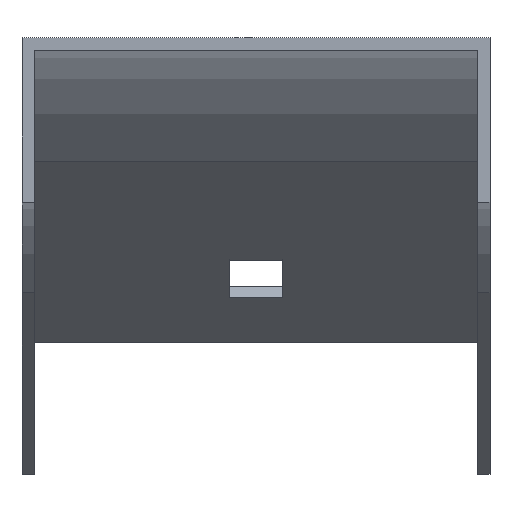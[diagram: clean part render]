
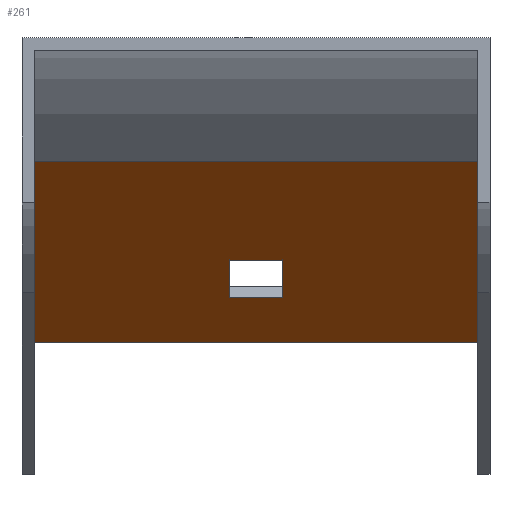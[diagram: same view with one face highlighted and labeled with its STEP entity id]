
A CAD part, top view. The second image highlights one B-rep face of the part: STEP entity #261.
In plain terms, the highlighted planar face has unit normal (0, -0.866, 0.5).
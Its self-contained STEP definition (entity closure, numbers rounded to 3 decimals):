
#11 = VERTEX_POINT ( 'NONE', #830 ) ;
#57 = CARTESIAN_POINT ( 'NONE',  ( 3.25, -14.897, -94. ) ) ;
#74 = EDGE_CURVE ( 'NONE', #644, #266, #828, .T. ) ;
#83 = ORIENTED_EDGE ( 'NONE', *, *, #446, .T. ) ;
#85 = CARTESIAN_POINT ( 'NONE',  ( -27., -14.897, -94. ) ) ;
#93 = LINE ( 'NONE', #623, #604 ) ;
#114 = CARTESIAN_POINT ( 'NONE',  ( 3.25, -26.897, -114.785 ) ) ;
#171 = CARTESIAN_POINT ( 'NONE',  ( -27., -14.897, -94. ) ) ;
#180 = LINE ( 'NONE', #384, #233 ) ;
#193 = DIRECTION ( 'NONE',  ( 0., 0.5, 0.866 ) ) ;
#195 = EDGE_LOOP ( 'NONE', ( #511, #83, #262, #726 ) ) ;
#213 = LINE ( 'NONE', #460, #323 ) ;
#228 = DIRECTION ( 'NONE',  ( 0., -0.866, 0.5 ) ) ;
#233 = VECTOR ( 'NONE', #769, 1000. ) ;
#237 = EDGE_CURVE ( 'NONE', #546, #238, #569, .T. ) ;
#238 = VERTEX_POINT ( 'NONE', #171 ) ;
#261 = ADVANCED_FACE ( 'NONE', ( #422, #821 ), #679, .T. ) ;
#262 = ORIENTED_EDGE ( 'NONE', *, *, #562, .T. ) ;
#266 = VERTEX_POINT ( 'NONE', #369 ) ;
#268 = DIRECTION ( 'NONE',  ( 0., -0.5, -0.866 ) ) ;
#287 = EDGE_CURVE ( 'NONE', #804, #11, #858, .T. ) ;
#295 = CARTESIAN_POINT ( 'NONE',  ( 27., -36.897, -132.105 ) ) ;
#298 = CARTESIAN_POINT ( 'NONE',  ( 28.5, -14.897, -94. ) ) ;
#309 = VECTOR ( 'NONE', #619, 1000. ) ;
#314 = ORIENTED_EDGE ( 'NONE', *, *, #287, .T. ) ;
#323 = VECTOR ( 'NONE', #476, 1000. ) ;
#351 = VECTOR ( 'NONE', #381, 1000. ) ;
#369 = CARTESIAN_POINT ( 'NONE',  ( 3.25, -31.397, -122.579 ) ) ;
#372 = CARTESIAN_POINT ( 'NONE',  ( -27., -36.897, -132.105 ) ) ;
#375 = VECTOR ( 'NONE', #193, 1000. ) ;
#381 = DIRECTION ( 'NONE',  ( -1., 0., 0. ) ) ;
#384 = CARTESIAN_POINT ( 'NONE',  ( 28.5, -31.397, -122.579 ) ) ;
#410 = VECTOR ( 'NONE', #646, 1000. ) ;
#422 = FACE_OUTER_BOUND ( 'NONE', #560, .T. ) ;
#446 = EDGE_CURVE ( 'NONE', #649, #470, #213, .T. ) ;
#447 = LINE ( 'NONE', #703, #351 ) ;
#460 = CARTESIAN_POINT ( 'NONE',  ( -3.25, -14.897, -94. ) ) ;
#470 = VERTEX_POINT ( 'NONE', #727 ) ;
#476 = DIRECTION ( 'NONE',  ( 0., 0.5, 0.866 ) ) ;
#493 = DIRECTION ( 'NONE',  ( 0., -0.5, -0.866 ) ) ;
#507 = AXIS2_PLACEMENT_3D ( 'NONE', #298, #228, #493 ) ;
#511 = ORIENTED_EDGE ( 'NONE', *, *, #565, .T. ) ;
#546 = VERTEX_POINT ( 'NONE', #372 ) ;
#560 = EDGE_LOOP ( 'NONE', ( #767, #617, #314, #862 ) ) ;
#562 = EDGE_CURVE ( 'NONE', #470, #644, #773, .T. ) ;
#565 = EDGE_CURVE ( 'NONE', #266, #649, #180, .T. ) ;
#569 = LINE ( 'NONE', #85, #309 ) ;
#578 = CARTESIAN_POINT ( 'NONE',  ( -3.25, -31.397, -122.579 ) ) ;
#580 = EDGE_CURVE ( 'NONE', #804, #546, #447, .T. ) ;
#604 = VECTOR ( 'NONE', #608, 1000. ) ;
#608 = DIRECTION ( 'NONE',  ( -1., 0., 0. ) ) ;
#617 = ORIENTED_EDGE ( 'NONE', *, *, #580, .F. ) ;
#619 = DIRECTION ( 'NONE',  ( 0., 0.5, 0.866 ) ) ;
#623 = CARTESIAN_POINT ( 'NONE',  ( 28.5, -14.897, -94. ) ) ;
#644 = VERTEX_POINT ( 'NONE', #114 ) ;
#646 = DIRECTION ( 'NONE',  ( 1., 0., 0. ) ) ;
#649 = VERTEX_POINT ( 'NONE', #578 ) ;
#679 = PLANE ( 'NONE',  #507 ) ;
#703 = CARTESIAN_POINT ( 'NONE',  ( 28.5, -36.897, -132.105 ) ) ;
#726 = ORIENTED_EDGE ( 'NONE', *, *, #74, .T. ) ;
#727 = CARTESIAN_POINT ( 'NONE',  ( -3.25, -26.897, -114.785 ) ) ;
#767 = ORIENTED_EDGE ( 'NONE', *, *, #237, .F. ) ;
#768 = CARTESIAN_POINT ( 'NONE',  ( 27., -14.897, -94. ) ) ;
#769 = DIRECTION ( 'NONE',  ( -1., 0., 0. ) ) ;
#773 = LINE ( 'NONE', #841, #410 ) ;
#778 = EDGE_CURVE ( 'NONE', #11, #238, #93, .T. ) ;
#804 = VERTEX_POINT ( 'NONE', #295 ) ;
#821 = FACE_BOUND ( 'NONE', #195, .T. ) ;
#828 = LINE ( 'NONE', #57, #838 ) ;
#830 = CARTESIAN_POINT ( 'NONE',  ( 27., -14.897, -94. ) ) ;
#838 = VECTOR ( 'NONE', #268, 1000. ) ;
#841 = CARTESIAN_POINT ( 'NONE',  ( 28.5, -26.897, -114.785 ) ) ;
#858 = LINE ( 'NONE', #768, #375 ) ;
#862 = ORIENTED_EDGE ( 'NONE', *, *, #778, .T. ) ;
